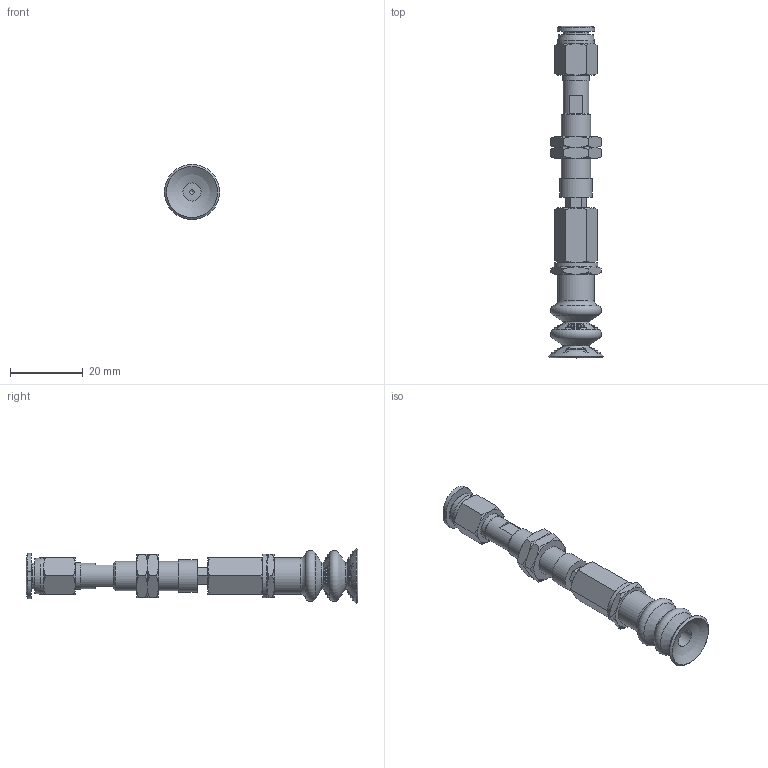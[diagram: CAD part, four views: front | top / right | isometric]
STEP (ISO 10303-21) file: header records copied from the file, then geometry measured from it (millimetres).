
FILE_DESCRIPTION(('STEP AP203'),'1');
FILE_NAME('-O.stp','2025-08-27T01:51:23',(' '),(' '),'Spatial InterOp 3D',' ',' ');
FILE_SCHEMA(('CONFIG_CONTROL_DESIGN'));
Length unit declared in the file: millimetre
Products named in the file (8): BNABPCTH-15-3-※-O; ADAPTER; NAPCTH-10-3-MBODY; Adapter_napc-15-T; Nut napc_h-15-3; NAPCTH-15-3-FBODY; BPCG-15-※; PC-C_06-M5
Assembly tree (8 placements, depth 2):
  BNABPCTH-15-3-※-O
    ADAPTER
    NAPCTH-10-3-MBODY
    Adapter_napc-15-T
    Nut napc_h-15-3  x2
    NAPCTH-15-3-FBODY
    BPCG-15-※
    PC-C_06-M5
Bounding box: 15.2 x 91.18 x 15.2 mm (x, y, z)
Volume: 5443.9 mm3; surface area: 6669.9 mm2
Topology: 7 solids, 10 shells, 281 faces, 790 edges, 505 vertices
Faces by surface type: cone 79, plane 77, sphere 58, torus 36, cylinder 24, bspline 4, revolution 3
Full cylindrical faces by diameter (mm): 1.25 x1, 4 x2, 4.134 x2, 5 x6, 7 x2, 7.188 x2, 7.4 x1, 8 x1, 8.2 x1, 9 x1, 10 x2, 12 x1
Entity records: 8155 total; most frequent: CARTESIAN_POINT 2466, DIRECTION 1135, ORIENTED_EDGE 990, AXIS2_PLACEMENT_3D 526, EDGE_CURVE 497, EDGE_LOOP 358, VERTEX_POINT 346, CIRCLE 267
